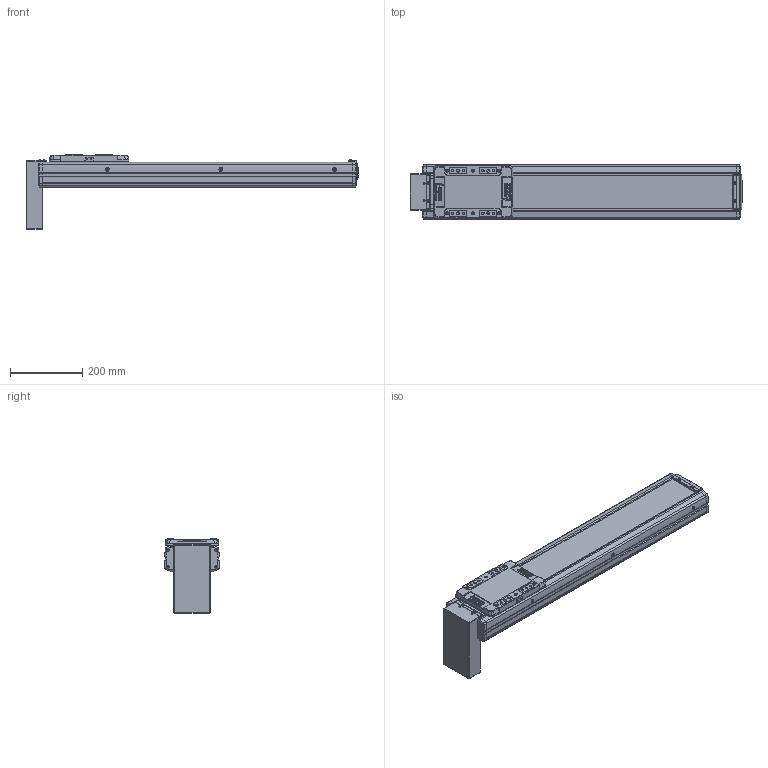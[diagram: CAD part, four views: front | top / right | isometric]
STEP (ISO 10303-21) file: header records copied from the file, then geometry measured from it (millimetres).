
FILE_DESCRIPTION(('STEP AP214'),'1');
FILE_NAME('Z:/Web/3D/SAN150/2013.04 (STP.)/SAN150ㅁㅁ-600PB.stp','2013-05-07T11:29:59',(' '),(' '),'Spatial InterOp 3D',' ',' ');
FILE_SCHEMA(('automotive_design'));
Length unit declared in the file: millimetre
Products named in the file (42): SLBL-SAN150; SLCV-SAN150; FHCS M4.0 x 8.0; BHCS M4.0 x 10.0; SFX-SAN150; RRCV-SAN150; FRBL-SAN150; Spacer; RN15; FRCV-SAN150; Screw 20; BASE-SAN150-000L ; SUS COVER; 스크루 : Round - M5.0 x 6.0; PB; 스크루 : Round - M3.0 x 6.0
Bounding box: 920 x 150 x 205.4 mm (x, y, z)
Volume: 5826303.9 mm3; surface area: 1005103.2 mm2
Topology: 42 solids, 42 shells, 2181 faces, 5588 edges, 3565 vertices
Faces by surface type: plane 1057, cylinder 773, cone 254, sphere 64, bspline 21, torus 12
Entity records: 86450 total; most frequent: CARTESIAN_POINT 14126, DIRECTION 11896, ORIENTED_EDGE 10952, EDGE_CURVE 5476, AXIS2_PLACEMENT_3D 4306, VERTEX_POINT 3565, LINE 3284, VECTOR 3284
